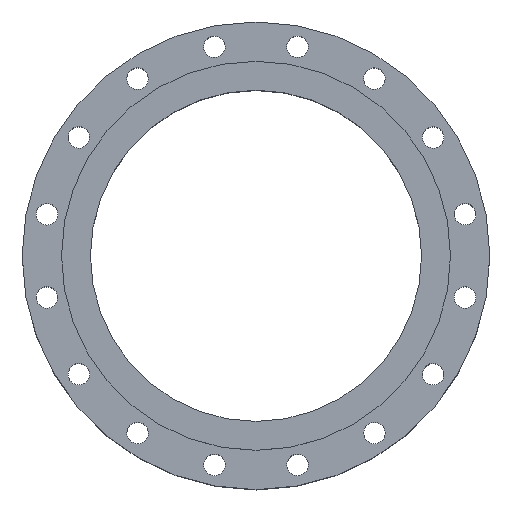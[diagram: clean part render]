
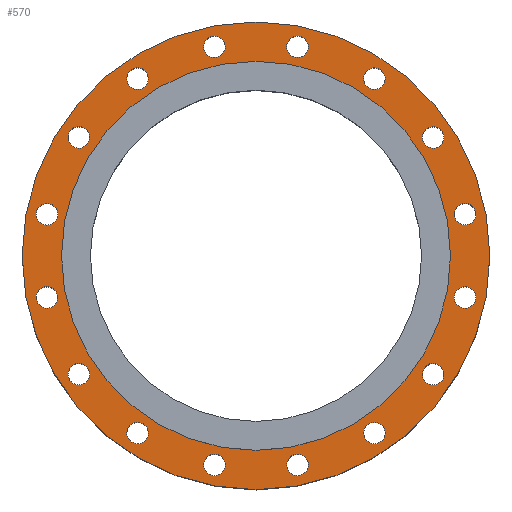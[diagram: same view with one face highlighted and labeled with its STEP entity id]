
A CAD part, top view. The second image highlights one B-rep face of the part: STEP entity #570.
In plain terms, the highlighted planar face has unit normal (0, 0, 1).
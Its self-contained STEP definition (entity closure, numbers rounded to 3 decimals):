
#570=ADVANCED_FACE('',(#1227,#1229,#1231,#1233,#1235,#1237,#1239,#1241,#1243,#1245,
#1247,#1249,#1251,#1253,#1255,#1257,#1259,#1261),#1263,.T.);
#1227=FACE_BOUND('',#1228,.T.);
#1228=EDGE_LOOP('',(#1588));
#1229=FACE_BOUND('',#1230,.T.);
#1230=EDGE_LOOP('',(#1589));
#1231=FACE_BOUND('',#1232,.T.);
#1232=EDGE_LOOP('',(#1590));
#1233=FACE_BOUND('',#1234,.T.);
#1234=EDGE_LOOP('',(#1591));
#1235=FACE_BOUND('',#1236,.T.);
#1236=EDGE_LOOP('',(#1592));
#1237=FACE_BOUND('',#1238,.T.);
#1238=EDGE_LOOP('',(#1593));
#1239=FACE_BOUND('',#1240,.T.);
#1240=EDGE_LOOP('',(#1594));
#1241=FACE_BOUND('',#1242,.T.);
#1242=EDGE_LOOP('',(#1595));
#1243=FACE_BOUND('',#1244,.T.);
#1244=EDGE_LOOP('',(#1596));
#1245=FACE_BOUND('',#1246,.T.);
#1246=EDGE_LOOP('',(#1597));
#1247=FACE_BOUND('',#1248,.T.);
#1248=EDGE_LOOP('',(#1598));
#1249=FACE_BOUND('',#1250,.T.);
#1250=EDGE_LOOP('',(#1599));
#1251=FACE_BOUND('',#1252,.T.);
#1252=EDGE_LOOP('',(#1600));
#1253=FACE_BOUND('',#1254,.T.);
#1254=EDGE_LOOP('',(#1601));
#1255=FACE_BOUND('',#1256,.T.);
#1256=EDGE_LOOP('',(#1602));
#1257=FACE_BOUND('',#1258,.T.);
#1258=EDGE_LOOP('',(#1603));
#1259=FACE_BOUND('',#1260,.T.);
#1260=EDGE_LOOP('',(#1604));
#1261=FACE_BOUND('',#1262,.T.);
#1262=EDGE_LOOP('',(#1605));
#1263=PLANE('',#1264);
#1264=AXIS2_PLACEMENT_3D('',#1265,#1266,#1267);
#1265=CARTESIAN_POINT('',(0.,0.,117.5));
#1266=DIRECTION('',(0.,0.,1.));
#1267=DIRECTION('',(0.,1.,0.));
#1588=ORIENTED_EDGE('',*,*,#1724,.F.);
#1589=ORIENTED_EDGE('',*,*,#1725,.T.);
#1590=ORIENTED_EDGE('',*,*,#1726,.T.);
#1591=ORIENTED_EDGE('',*,*,#1727,.T.);
#1592=ORIENTED_EDGE('',*,*,#1728,.T.);
#1593=ORIENTED_EDGE('',*,*,#1729,.T.);
#1594=ORIENTED_EDGE('',*,*,#1730,.T.);
#1595=ORIENTED_EDGE('',*,*,#1731,.T.);
#1596=ORIENTED_EDGE('',*,*,#1732,.T.);
#1597=ORIENTED_EDGE('',*,*,#1733,.T.);
#1598=ORIENTED_EDGE('',*,*,#1734,.T.);
#1599=ORIENTED_EDGE('',*,*,#1735,.T.);
#1600=ORIENTED_EDGE('',*,*,#1736,.T.);
#1601=ORIENTED_EDGE('',*,*,#1737,.T.);
#1602=ORIENTED_EDGE('',*,*,#1738,.T.);
#1603=ORIENTED_EDGE('',*,*,#1739,.T.);
#1604=ORIENTED_EDGE('',*,*,#1758,.T.);
#1605=ORIENTED_EDGE('',*,*,#1740,.T.);
#1724=EDGE_CURVE('',#1918,#1918,#1919,.T.);
#1725=EDGE_CURVE('',#1920,#1920,#1921,.T.);
#1726=EDGE_CURVE('',#1922,#1922,#1923,.T.);
#1727=EDGE_CURVE('',#1924,#1924,#1925,.T.);
#1728=EDGE_CURVE('',#1926,#1926,#1927,.T.);
#1729=EDGE_CURVE('',#1928,#1928,#1929,.T.);
#1730=EDGE_CURVE('',#1930,#1930,#1931,.T.);
#1731=EDGE_CURVE('',#1932,#1932,#1933,.T.);
#1732=EDGE_CURVE('',#1934,#1934,#1935,.T.);
#1733=EDGE_CURVE('',#1936,#1936,#1937,.T.);
#1734=EDGE_CURVE('',#1938,#1938,#1939,.T.);
#1735=EDGE_CURVE('',#1940,#1940,#1941,.T.);
#1736=EDGE_CURVE('',#1942,#1942,#1943,.T.);
#1737=EDGE_CURVE('',#1944,#1944,#1945,.T.);
#1738=EDGE_CURVE('',#1946,#1946,#1947,.T.);
#1739=EDGE_CURVE('',#1948,#1948,#1949,.T.);
#1740=EDGE_CURVE('',#1950,#1950,#1951,.T.);
#1758=EDGE_CURVE('',#1986,#1986,#1987,.T.);
#1918=VERTEX_POINT('',#3363);
#1919=CIRCLE('',#3364,282.5);
#1920=VERTEX_POINT('',#3368);
#1921=CIRCLE('',#3369,13.);
#1922=VERTEX_POINT('',#3373);
#1923=CIRCLE('',#3374,13.);
#1924=VERTEX_POINT('',#3378);
#1925=CIRCLE('',#3379,13.);
#1926=VERTEX_POINT('',#3383);
#1927=CIRCLE('',#3384,13.);
#1928=VERTEX_POINT('',#3388);
#1929=CIRCLE('',#3389,13.);
#1930=VERTEX_POINT('',#3393);
#1931=CIRCLE('',#3394,13.);
#1932=VERTEX_POINT('',#3398);
#1933=CIRCLE('',#3399,13.);
#1934=VERTEX_POINT('',#3403);
#1935=CIRCLE('',#3404,13.);
#1936=VERTEX_POINT('',#3408);
#1937=CIRCLE('',#3409,13.);
#1938=VERTEX_POINT('',#3413);
#1939=CIRCLE('',#3414,13.);
#1940=VERTEX_POINT('',#3418);
#1941=CIRCLE('',#3419,13.);
#1942=VERTEX_POINT('',#3423);
#1943=CIRCLE('',#3424,13.);
#1944=VERTEX_POINT('',#3428);
#1945=CIRCLE('',#3429,13.);
#1946=VERTEX_POINT('',#3433);
#1947=CIRCLE('',#3434,13.);
#1948=VERTEX_POINT('',#3438);
#1949=CIRCLE('',#3439,13.);
#1950=VERTEX_POINT('',#3443);
#1951=CIRCLE('',#3444,13.);
#1986=VERTEX_POINT('',#3533);
#1987=CIRCLE('',#3534,235.);
#3363=CARTESIAN_POINT('',(0.,282.5,117.5));
#3364=AXIS2_PLACEMENT_3D('',#3365,#3366,#3367);
#3365=CARTESIAN_POINT('',(0.,0.,117.5));
#3366=DIRECTION('',(0.,0.,-1.));
#3367=DIRECTION('',(0.,1.,0.));
#3368=CARTESIAN_POINT('',(131.049,219.078,117.5));
#3369=AXIS2_PLACEMENT_3D('',#3370,#3371,#3372);
#3370=CARTESIAN_POINT('',(143.059,214.103,117.5));
#3371=DIRECTION('',(0.,0.,-1.));
#3372=DIRECTION('',(-0.924,0.383,0.));
#3373=CARTESIAN_POINT('',(204.911,152.252,117.5));
#3374=AXIS2_PLACEMENT_3D('',#3375,#3376,#3377);
#3375=CARTESIAN_POINT('',(214.103,143.059,117.5));
#3376=DIRECTION('',(0.,0.,-1.));
#3377=DIRECTION('',(-0.707,0.707,0.));
#3378=CARTESIAN_POINT('',(247.577,62.246,117.5));
#3379=AXIS2_PLACEMENT_3D('',#3380,#3381,#3382);
#3380=CARTESIAN_POINT('',(252.552,50.236,117.5));
#3381=DIRECTION('',(0.,0.,-1.));
#3382=DIRECTION('',(-0.383,0.924,0.));
#3383=CARTESIAN_POINT('',(252.552,-37.236,117.5));
#3384=AXIS2_PLACEMENT_3D('',#3385,#3386,#3387);
#3385=CARTESIAN_POINT('',(252.552,-50.236,117.5));
#3386=DIRECTION('',(0.,0.,-1.));
#3387=DIRECTION('',(0.,1.,0.));
#3388=CARTESIAN_POINT('',(219.078,-131.049,117.5));
#3389=AXIS2_PLACEMENT_3D('',#3390,#3391,#3392);
#3390=CARTESIAN_POINT('',(214.103,-143.059,117.5));
#3391=DIRECTION('',(0.,0.,-1.));
#3392=DIRECTION('',(0.383,0.924,0.));
#3393=CARTESIAN_POINT('',(152.252,-204.911,117.5));
#3394=AXIS2_PLACEMENT_3D('',#3395,#3396,#3397);
#3395=CARTESIAN_POINT('',(143.059,-214.103,117.5));
#3396=DIRECTION('',(0.,0.,-1.));
#3397=DIRECTION('',(0.707,0.707,0.));
#3398=CARTESIAN_POINT('',(62.246,-247.577,117.5));
#3399=AXIS2_PLACEMENT_3D('',#3400,#3401,#3402);
#3400=CARTESIAN_POINT('',(50.236,-252.552,117.5));
#3401=DIRECTION('',(0.,0.,-1.));
#3402=DIRECTION('',(0.924,0.383,0.));
#3403=CARTESIAN_POINT('',(-37.236,-252.552,117.5));
#3404=AXIS2_PLACEMENT_3D('',#3405,#3406,#3407);
#3405=CARTESIAN_POINT('',(-50.236,-252.552,117.5));
#3406=DIRECTION('',(0.,0.,-1.));
#3407=DIRECTION('',(1.,0.,0.));
#3408=CARTESIAN_POINT('',(-131.049,-219.078,117.5));
#3409=AXIS2_PLACEMENT_3D('',#3410,#3411,#3412);
#3410=CARTESIAN_POINT('',(-143.059,-214.103,117.5));
#3411=DIRECTION('',(0.,0.,-1.));
#3412=DIRECTION('',(0.924,-0.383,0.));
#3413=CARTESIAN_POINT('',(-204.911,-152.252,117.5));
#3414=AXIS2_PLACEMENT_3D('',#3415,#3416,#3417);
#3415=CARTESIAN_POINT('',(-214.103,-143.059,117.5));
#3416=DIRECTION('',(0.,0.,-1.));
#3417=DIRECTION('',(0.707,-0.707,0.));
#3418=CARTESIAN_POINT('',(-247.577,-62.246,117.5));
#3419=AXIS2_PLACEMENT_3D('',#3420,#3421,#3422);
#3420=CARTESIAN_POINT('',(-252.552,-50.236,117.5));
#3421=DIRECTION('',(0.,0.,-1.));
#3422=DIRECTION('',(0.383,-0.924,0.));
#3423=CARTESIAN_POINT('',(-252.552,37.236,117.5));
#3424=AXIS2_PLACEMENT_3D('',#3425,#3426,#3427);
#3425=CARTESIAN_POINT('',(-252.552,50.236,117.5));
#3426=DIRECTION('',(0.,0.,-1.));
#3427=DIRECTION('',(0.,-1.,0.));
#3428=CARTESIAN_POINT('',(-219.078,131.049,117.5));
#3429=AXIS2_PLACEMENT_3D('',#3430,#3431,#3432);
#3430=CARTESIAN_POINT('',(-214.103,143.059,117.5));
#3431=DIRECTION('',(0.,0.,-1.));
#3432=DIRECTION('',(-0.383,-0.924,0.));
#3433=CARTESIAN_POINT('',(-152.252,204.911,117.5));
#3434=AXIS2_PLACEMENT_3D('',#3435,#3436,#3437);
#3435=CARTESIAN_POINT('',(-143.059,214.103,117.5));
#3436=DIRECTION('',(0.,0.,-1.));
#3437=DIRECTION('',(-0.707,-0.707,0.));
#3438=CARTESIAN_POINT('',(-62.246,247.577,117.5));
#3439=AXIS2_PLACEMENT_3D('',#3440,#3441,#3442);
#3440=CARTESIAN_POINT('',(-50.236,252.552,117.5));
#3441=DIRECTION('',(0.,0.,-1.));
#3442=DIRECTION('',(-0.924,-0.383,0.));
#3443=CARTESIAN_POINT('',(37.236,252.552,117.5));
#3444=AXIS2_PLACEMENT_3D('',#3445,#3446,#3447);
#3445=CARTESIAN_POINT('',(50.236,252.552,117.5));
#3446=DIRECTION('',(0.,0.,-1.));
#3447=DIRECTION('',(-1.,0.,0.));
#3533=CARTESIAN_POINT('',(0.,235.,117.5));
#3534=AXIS2_PLACEMENT_3D('',#3535,#3536,#3537);
#3535=CARTESIAN_POINT('',(0.,0.,117.5));
#3536=DIRECTION('',(0.,0.,-1.));
#3537=DIRECTION('',(0.,1.,0.));
